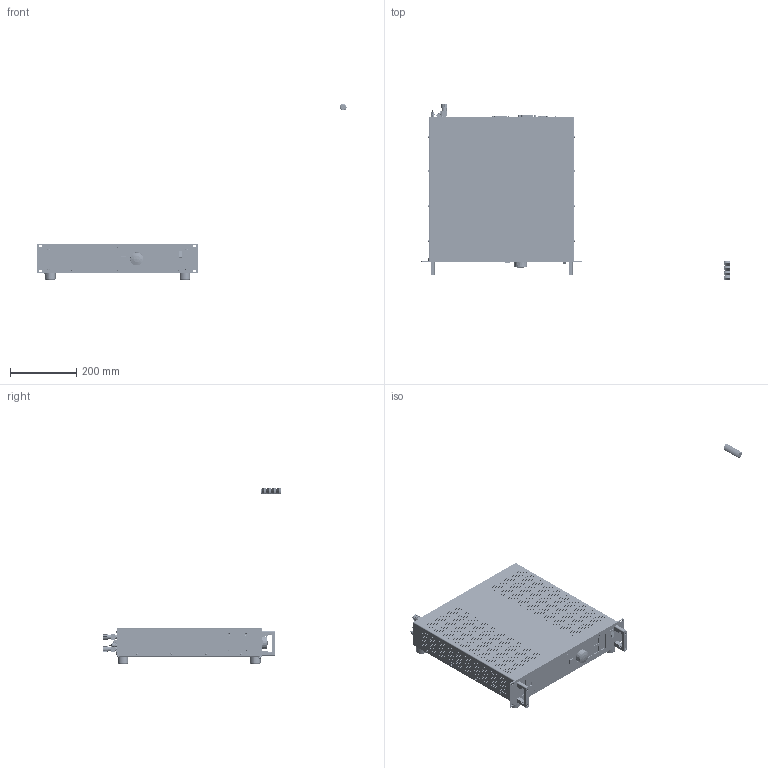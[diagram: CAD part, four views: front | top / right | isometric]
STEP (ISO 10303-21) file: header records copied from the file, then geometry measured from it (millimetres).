
FILE_DESCRIPTION(('STEP AP214'),'1');
FILE_NAME('QL_M2_19Z_2HE_PBK4_60L_3D_01.step','2022-03-30T05:55:12',(' '),(' '),'Spatial InterOp 3D',' ',' ');
FILE_SCHEMA(('AUTOMOTIVE_DESIGN { 1 0 10303 214 1 1 1 1 }'));
Length unit declared in the file: millimetre
Products named in the file (35): 2237_QL 2HE Gehäuse 3D_02; BSO_M3_L10; *U124; AutoCreatedBlock_2197; 2243_QL_2HE_Rückwand_01_mit_Einbauten_3D_01; 2243_QL 2HE Rückwand_3D_01; *U336; *U337; *U338; AutoCreatedBlock_2203; 151_PLHA_3D_05; 1760_PLI_5HE_Querholm_3D_02; 358_QUPRO_3D_03; BG451_mit_MT144_3D_01; *U274; *U275; *U276; AutoCreatedBlock_2219; 2257_QL_IO Panel Standard_3D_01; 2084_IO-Port Abdeckung_3D_01; DIN 7985-A; DIN 7985-AxM4 X 0.7x5; 2265_QL_2HE_Berührungsg_Polkl_Halter_3D_PBK4-60L_01; 3xM2.5_5x5x12; AutoCreatedBlock_2235; DIN 966-A; 2070_ACL_Frontplatte_2HE_3D_02_mit_Einbauten_01; A$C61A611E1; AutoCreatedBlock_2245; A$C61A8C621; 275_DECK_3D_02; AutoCreatedBlock_2193
Assembly tree (95 placements, depth 3):
  (unnamed)
    2237_QL 2HE Gehäuse 3D_02
      BSO_M3_L10  x22
      *U124
      AutoCreatedBlock_2197
    2243_QL_2HE_Rückwand_01_mit_Einbauten_3D_01
      2243_QL 2HE Rückwand_3D_01
      *U336
      *U337  x2
      *U338  x3
      AutoCreatedBlock_2203
    151_PLHA_3D_05  x2
    1760_PLI_5HE_Querholm_3D_02
    358_QUPRO_3D_03
    BG451_mit_MT144_3D_01
      *U274
      *U275  x2
      *U276  x2
      AutoCreatedBlock_2219
    2257_QL_IO Panel Standard_3D_01
    2084_IO-Port Abdeckung_3D_01  x2
    DIN 7985-A  x8
    DIN 7985-AxM4 X 0.7x5
    2265_QL_2HE_Berührungsg_Polkl_Halter_3D_PBK4-60L_01
      3xM2.5_5x5x12  x4
      AutoCreatedBlock_2235
    DIN 966-A  x5
    DIN 7985-A  x2
    DIN 7985-A  x18
    2070_ACL_Frontplatte_2HE_3D_02_mit_Einbauten_01
      A$C61A611E1
      AutoCreatedBlock_2245
    A$C61A8C621  x2
    275_DECK_3D_02
    AutoCreatedBlock_2193
Bounding box: 931.25 x 533.92 x 531.04 mm (x, y, z)
Volume: 16014940.2 mm3; surface area: 1847252.4 mm2
Topology: 245 solids, 263 shells, 18654 faces, 47085 edges, 29973 vertices
Faces by surface type: plane 7450, cone 6331, cylinder 4179, bspline 267, torus 263, sphere 156, revolution 6, extrusion 2
Entity records: 597890 total; most frequent: CARTESIAN_POINT 117760, DIRECTION 76894, ORIENTED_EDGE 72960, EDGE_CURVE 36511, AXIS2_PLACEMENT_3D 26679, VECTOR 23530, LINE 23528, VERTEX_POINT 23019
